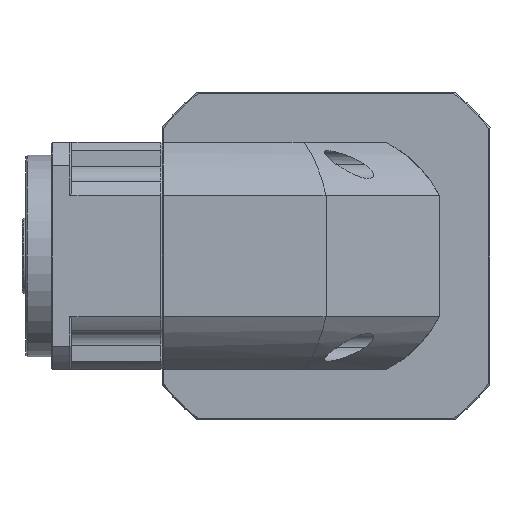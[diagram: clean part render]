
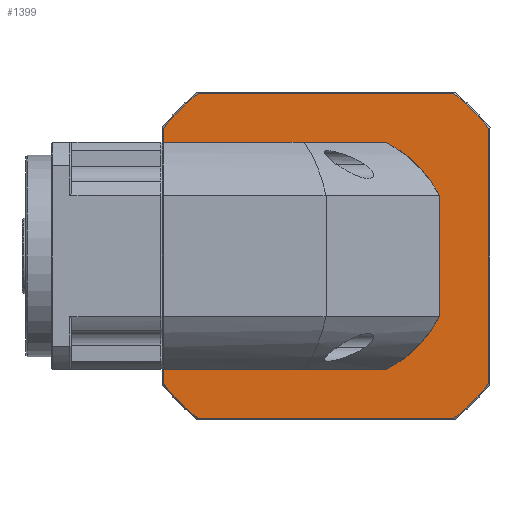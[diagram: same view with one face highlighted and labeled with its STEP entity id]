
A CAD part, front view. The second image highlights one B-rep face of the part: STEP entity #1399.
In plain terms, the highlighted planar face has unit normal (0, -1, 0).
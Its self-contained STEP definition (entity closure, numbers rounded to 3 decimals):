
#321 = CARTESIAN_POINT ( 'NONE',  ( 54.5, 72.5, -50.633 ) ) ;
#1399 = ADVANCED_FACE ( 'NONE', ( #9579, #5461 ), #12369, .T. ) ;
#1841 = AXIS2_PLACEMENT_3D ( 'NONE', #38328, #18680, #84119 ) ;
#1930 = CARTESIAN_POINT ( 'NONE',  ( 183.5, 72.5, 0. ) ) ;
#2332 = LINE ( 'NONE', #82647, #71753 ) ;
#2784 = AXIS2_PLACEMENT_3D ( 'NONE', #51627, #32251, #43607 ) ;
#2852 = CIRCLE ( 'NONE', #38655, 50.5 ) ;
#3167 = DIRECTION ( 'NONE',  ( 0., 0., 1. ) ) ;
#5461 = FACE_OUTER_BOUND ( 'NONE', #33076, .T. ) ;
#5500 = CARTESIAN_POINT ( 'NONE',  ( 163.5, 72.5, 23.875 ) ) ;
#5656 = EDGE_CURVE ( 'NONE', #60253, #68405, #49626, .T. ) ;
#6671 = CIRCLE ( 'NONE', #70570, 50.5 ) ;
#7576 = VECTOR ( 'NONE', #35541, 1000. ) ;
#7893 = VERTEX_POINT ( 'NONE', #23360 ) ;
#8124 = EDGE_CURVE ( 'NONE', #33931, #81579, #6671, .T. ) ;
#8658 = CARTESIAN_POINT ( 'NONE',  ( 74.5, 72.5, 0. ) ) ;
#9204 = AXIS2_PLACEMENT_3D ( 'NONE', #49803, #12633, #21825 ) ;
#9579 = FACE_BOUND ( 'NONE', #24486, .T. ) ;
#9940 = VERTEX_POINT ( 'NONE', #64809 ) ;
#10306 = VECTOR ( 'NONE', #35965, 1000. ) ;
#10660 = CARTESIAN_POINT ( 'NONE',  ( 74.5, 72.5, 23.875 ) ) ;
#12120 = DIRECTION ( 'NONE',  ( 0., 0., -1. ) ) ;
#12369 = PLANE ( 'NONE',  #1841 ) ;
#12426 = CARTESIAN_POINT ( 'NONE',  ( 95.125, 72.5, 44.5 ) ) ;
#12633 = DIRECTION ( 'NONE',  ( 0., -1., 0. ) ) ;
#13627 = CARTESIAN_POINT ( 'NONE',  ( 119., 72.5, 0. ) ) ;
#14062 = VERTEX_POINT ( 'NONE', #18299 ) ;
#14702 = CARTESIAN_POINT ( 'NONE',  ( 163.5, 72.5, -23.875 ) ) ;
#14726 = CARTESIAN_POINT ( 'NONE',  ( 119., 72.5, -64.5 ) ) ;
#15472 = ORIENTED_EDGE ( 'NONE', *, *, #34578, .T. ) ;
#16333 = CARTESIAN_POINT ( 'NONE',  ( 163.5, 72.5, 0. ) ) ;
#16867 = ORIENTED_EDGE ( 'NONE', *, *, #54767, .T. ) ;
#17908 = VECTOR ( 'NONE', #47574, 1000. ) ;
#17969 = LINE ( 'NONE', #42956, #63924 ) ;
#18299 = CARTESIAN_POINT ( 'NONE',  ( 95.125, 72.5, -44.5 ) ) ;
#18346 = LINE ( 'NONE', #8658, #72531 ) ;
#18680 = DIRECTION ( 'NONE',  ( 0., -1., 0. ) ) ;
#19742 = ORIENTED_EDGE ( 'NONE', *, *, #40779, .T. ) ;
#19862 = CARTESIAN_POINT ( 'NONE',  ( 119., 72.5, 44.5 ) ) ;
#19878 = VERTEX_POINT ( 'NONE', #74109 ) ;
#20772 = CARTESIAN_POINT ( 'NONE',  ( 183.5, 72.5, -50.633 ) ) ;
#21693 = CIRCLE ( 'NONE', #69137, 82. ) ;
#21825 = DIRECTION ( 'NONE',  ( 0., 0., 1. ) ) ;
#22082 = VECTOR ( 'NONE', #26438, 1000. ) ;
#23360 = CARTESIAN_POINT ( 'NONE',  ( 68.367, 72.5, 64.5 ) ) ;
#24486 = EDGE_LOOP ( 'NONE', ( #80394, #55355, #19742, #16867, #65573, #79908, #33990, #66059 ) ) ;
#24637 = ORIENTED_EDGE ( 'NONE', *, *, #45300, .T. ) ;
#25686 = DIRECTION ( 'NONE',  ( 0., 0., 1. ) ) ;
#25941 = EDGE_CURVE ( 'NONE', #14062, #19878, #2332, .T. ) ;
#26438 = DIRECTION ( 'NONE',  ( -1., 0., 0. ) ) ;
#26913 = CIRCLE ( 'NONE', #9204, 82. ) ;
#27343 = AXIS2_PLACEMENT_3D ( 'NONE', #29144, #74282, #3167 ) ;
#28561 = CARTESIAN_POINT ( 'NONE',  ( 68.367, 72.5, -64.5 ) ) ;
#29144 = CARTESIAN_POINT ( 'NONE',  ( 119., 72.5, 0. ) ) ;
#30338 = EDGE_CURVE ( 'NONE', #7893, #80905, #39516, .T. ) ;
#30818 = VERTEX_POINT ( 'NONE', #31870 ) ;
#31189 = LINE ( 'NONE', #19862, #22082 ) ;
#31870 = CARTESIAN_POINT ( 'NONE',  ( 183.5, 72.5, 50.633 ) ) ;
#32251 = DIRECTION ( 'NONE',  ( 0., -1., 0. ) ) ;
#32527 = AXIS2_PLACEMENT_3D ( 'NONE', #58973, #38647, #45218 ) ;
#32799 = DIRECTION ( 'NONE',  ( 0., -1., 0. ) ) ;
#33076 = EDGE_LOOP ( 'NONE', ( #75543, #39992, #24637, #44354, #77835, #74339, #68562, #15472 ) ) ;
#33931 = VERTEX_POINT ( 'NONE', #10660 ) ;
#33990 = ORIENTED_EDGE ( 'NONE', *, *, #81914, .F. ) ;
#34358 = DIRECTION ( 'NONE',  ( 0., 0., -1. ) ) ;
#34578 = EDGE_CURVE ( 'NONE', #30818, #79165, #21693, .T. ) ;
#35541 = DIRECTION ( 'NONE',  ( 0., 0., 1. ) ) ;
#35556 = AXIS2_PLACEMENT_3D ( 'NONE', #66335, #58907, #59491 ) ;
#35643 = CARTESIAN_POINT ( 'NONE',  ( 142.875, 72.5, 44.5 ) ) ;
#35965 = DIRECTION ( 'NONE',  ( 0., 0., -1. ) ) ;
#38328 = CARTESIAN_POINT ( 'NONE',  ( 54.5, 72.5, 64.5 ) ) ;
#38646 = CARTESIAN_POINT ( 'NONE',  ( 119., 72.5, 0. ) ) ;
#38647 = DIRECTION ( 'NONE',  ( 0., -1., 0. ) ) ;
#38655 = AXIS2_PLACEMENT_3D ( 'NONE', #59776, #67206, #34358 ) ;
#39425 = CIRCLE ( 'NONE', #27343, 82. ) ;
#39516 = CIRCLE ( 'NONE', #2784, 82. ) ;
#39992 = ORIENTED_EDGE ( 'NONE', *, *, #30338, .T. ) ;
#40779 = EDGE_CURVE ( 'NONE', #66891, #60767, #2852, .T. ) ;
#40985 = VERTEX_POINT ( 'NONE', #321 ) ;
#42576 = DIRECTION ( 'NONE',  ( 0., 0., -1. ) ) ;
#42956 = CARTESIAN_POINT ( 'NONE',  ( 119., 72.5, 64.5 ) ) ;
#43607 = DIRECTION ( 'NONE',  ( 0., 0., 1. ) ) ;
#44043 = VECTOR ( 'NONE', #42576, 1000. ) ;
#44087 = CIRCLE ( 'NONE', #35556, 50.5 ) ;
#44354 = ORIENTED_EDGE ( 'NONE', *, *, #56709, .T. ) ;
#45218 = DIRECTION ( 'NONE',  ( 0., 0., -1. ) ) ;
#45300 = EDGE_CURVE ( 'NONE', #80905, #40985, #61352, .T. ) ;
#46119 = LINE ( 'NONE', #16333, #44043 ) ;
#47574 = DIRECTION ( 'NONE',  ( 1., 0., 0. ) ) ;
#48423 = DIRECTION ( 'NONE',  ( -1., 0., 0. ) ) ;
#49101 = CARTESIAN_POINT ( 'NONE',  ( 54.5, 72.5, 0. ) ) ;
#49626 = LINE ( 'NONE', #14726, #17908 ) ;
#49803 = CARTESIAN_POINT ( 'NONE',  ( 119., 72.5, 0. ) ) ;
#51627 = CARTESIAN_POINT ( 'NONE',  ( 119., 72.5, 0. ) ) ;
#53572 = EDGE_CURVE ( 'NONE', #69279, #30818, #69902, .T. ) ;
#54767 = EDGE_CURVE ( 'NONE', #60767, #68816, #46119, .T. ) ;
#55355 = ORIENTED_EDGE ( 'NONE', *, *, #79021, .F. ) ;
#56709 = EDGE_CURVE ( 'NONE', #40985, #60253, #26913, .T. ) ;
#57431 = DIRECTION ( 'NONE',  ( 1., 0., 0. ) ) ;
#58393 = DIRECTION ( 'NONE',  ( 0., 1., 0. ) ) ;
#58907 = DIRECTION ( 'NONE',  ( 0., -1., 0. ) ) ;
#58973 = CARTESIAN_POINT ( 'NONE',  ( 119., 72.5, 0. ) ) ;
#59110 = EDGE_CURVE ( 'NONE', #9940, #33931, #18346, .T. ) ;
#59491 = DIRECTION ( 'NONE',  ( 0., 0., -1. ) ) ;
#59776 = CARTESIAN_POINT ( 'NONE',  ( 119., 72.5, 0. ) ) ;
#60253 = VERTEX_POINT ( 'NONE', #28561 ) ;
#60767 = VERTEX_POINT ( 'NONE', #5500 ) ;
#60873 = DIRECTION ( 'NONE',  ( 0., 0., 1. ) ) ;
#61352 = LINE ( 'NONE', #49101, #10306 ) ;
#62729 = CARTESIAN_POINT ( 'NONE',  ( 169.633, 72.5, -64.5 ) ) ;
#63924 = VECTOR ( 'NONE', #48423, 1000. ) ;
#64809 = CARTESIAN_POINT ( 'NONE',  ( 74.5, 72.5, -23.875 ) ) ;
#65573 = ORIENTED_EDGE ( 'NONE', *, *, #75506, .F. ) ;
#65665 = EDGE_CURVE ( 'NONE', #79165, #7893, #17969, .T. ) ;
#66059 = ORIENTED_EDGE ( 'NONE', *, *, #59110, .T. ) ;
#66180 = EDGE_CURVE ( 'NONE', #68405, #69279, #39425, .T. ) ;
#66335 = CARTESIAN_POINT ( 'NONE',  ( 119., 72.5, 0. ) ) ;
#66891 = VERTEX_POINT ( 'NONE', #35643 ) ;
#67206 = DIRECTION ( 'NONE',  ( 0., 1., 0. ) ) ;
#68405 = VERTEX_POINT ( 'NONE', #62729 ) ;
#68562 = ORIENTED_EDGE ( 'NONE', *, *, #53572, .T. ) ;
#68816 = VERTEX_POINT ( 'NONE', #14702 ) ;
#69137 = AXIS2_PLACEMENT_3D ( 'NONE', #13627, #32799, #25686 ) ;
#69279 = VERTEX_POINT ( 'NONE', #20772 ) ;
#69902 = LINE ( 'NONE', #1930, #7576 ) ;
#70570 = AXIS2_PLACEMENT_3D ( 'NONE', #38646, #58393, #12120 ) ;
#71753 = VECTOR ( 'NONE', #57431, 1000. ) ;
#72531 = VECTOR ( 'NONE', #60873, 1000. ) ;
#74109 = CARTESIAN_POINT ( 'NONE',  ( 142.875, 72.5, -44.5 ) ) ;
#74282 = DIRECTION ( 'NONE',  ( 0., -1., 0. ) ) ;
#74339 = ORIENTED_EDGE ( 'NONE', *, *, #66180, .T. ) ;
#75506 = EDGE_CURVE ( 'NONE', #19878, #68816, #76609, .T. ) ;
#75543 = ORIENTED_EDGE ( 'NONE', *, *, #65665, .T. ) ;
#76609 = CIRCLE ( 'NONE', #32527, 50.5 ) ;
#77835 = ORIENTED_EDGE ( 'NONE', *, *, #5656, .T. ) ;
#79021 = EDGE_CURVE ( 'NONE', #66891, #81579, #31189, .T. ) ;
#79165 = VERTEX_POINT ( 'NONE', #79286 ) ;
#79286 = CARTESIAN_POINT ( 'NONE',  ( 169.633, 72.5, 64.5 ) ) ;
#79908 = ORIENTED_EDGE ( 'NONE', *, *, #25941, .F. ) ;
#80394 = ORIENTED_EDGE ( 'NONE', *, *, #8124, .T. ) ;
#80905 = VERTEX_POINT ( 'NONE', #83703 ) ;
#81579 = VERTEX_POINT ( 'NONE', #12426 ) ;
#81914 = EDGE_CURVE ( 'NONE', #9940, #14062, #44087, .T. ) ;
#82647 = CARTESIAN_POINT ( 'NONE',  ( 119., 72.5, -44.5 ) ) ;
#83703 = CARTESIAN_POINT ( 'NONE',  ( 54.5, 72.5, 50.633 ) ) ;
#84119 = DIRECTION ( 'NONE',  ( 0., 0., -1. ) ) ;
